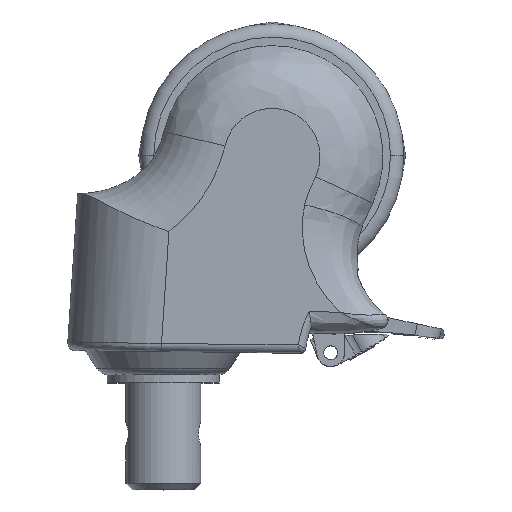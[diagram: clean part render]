
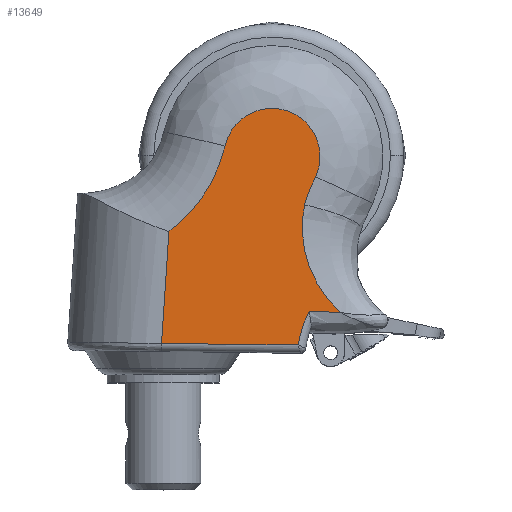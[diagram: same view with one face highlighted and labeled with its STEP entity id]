
A CAD part, top view. The second image highlights one B-rep face of the part: STEP entity #13649.
In plain terms, the highlighted planar face has unit normal (0, 0, 1) as drawn and (0, 0, -1) by its records, which use the part's own axes.
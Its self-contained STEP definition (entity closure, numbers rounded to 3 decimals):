
#11590=CARTESIAN_POINT('',(20.616,73.271,
-35.));
#12021=CARTESIAN_POINT('',(74.887,57.559,-35.));
#12022=CARTESIAN_POINT('',(76.187,57.629,-35.));
#12023=CARTESIAN_POINT('',(78.784,57.699,
-35.));
#12024=CARTESIAN_POINT('',(82.69,57.597,
-35.));
#12025=CARTESIAN_POINT('',(85.271,57.391,
-35.));
#12026=CARTESIAN_POINT('',(86.558,57.254,
-35.));
#12037=CARTESIAN_POINT('',(116.407,74.804,-35.));
#12038=DIRECTION('',(0.,0.,-1.));
#12039=DIRECTION('',(-0.924,-0.384,0.));
#12040=AXIS2_PLACEMENT_3D('',#12037,#12038,#12039);
#12042=DIRECTION('',(-0.998,0.056,0.));
#12043=VECTOR('',#12042,51.125);
#12044=CARTESIAN_POINT('',(71.662,70.417,-35.));
#12045=LINE('',#12044,#12043);
#12046=DIRECTION('',(0.,1.,0.));
#12047=VECTOR('',#12046,41.99);
#12048=CARTESIAN_POINT('',(20.616,31.281,-35.));
#12049=LINE('',#12048,#12047);
#12050=CARTESIAN_POINT('',(-14.901,-10.713,-35.));
#12051=DIRECTION('',(0.,0.,1.));
#12052=DIRECTION('',(0.988,0.157,0.));
#12053=AXIS2_PLACEMENT_3D('',#12050,#12051,#12052);
#12055=CARTESIAN_POINT('',(57.195,0.743,-35.));
#12056=DIRECTION('',(0.,0.,-1.));
#12057=DIRECTION('',(0.934,0.358,0.));
#12058=AXIS2_PLACEMENT_3D('',#12055,#12056,#12057);
#12060=CARTESIAN_POINT('',(70.616,17.966,-35.));
#12061=CARTESIAN_POINT('',(70.668,17.613,-35.));
#12062=CARTESIAN_POINT('',(70.796,16.871,-35.));
#12063=CARTESIAN_POINT('',(71.063,15.664,-35.));
#12064=CARTESIAN_POINT('',(71.426,14.315,-35.));
#12065=CARTESIAN_POINT('',(71.905,12.794,-35.));
#12066=CARTESIAN_POINT('',(72.503,11.102,-35.));
#12067=CARTESIAN_POINT('',(73.212,9.24,-35.));
#12068=CARTESIAN_POINT('',(73.73,7.895,-35.));
#12069=CARTESIAN_POINT('',(73.999,7.194,-35.));
#12071=CARTESIAN_POINT('',(86.558,57.254,
-35.));
#12072=CARTESIAN_POINT('',(86.073,56.861,
-35.));
#12073=CARTESIAN_POINT('',(85.109,56.045,
-35.));
#12074=CARTESIAN_POINT('',(83.672,54.726,
-35.));
#12075=CARTESIAN_POINT('',(82.283,53.336,
-35.));
#12076=CARTESIAN_POINT('',(80.967,51.904,
-35.));
#12077=CARTESIAN_POINT('',(79.723,50.427,
-35.));
#12078=CARTESIAN_POINT('',(78.552,48.91,
-35.));
#12079=CARTESIAN_POINT('',(77.454,47.354,
-35.));
#12080=CARTESIAN_POINT('',(76.431,45.764,
-35.));
#12081=CARTESIAN_POINT('',(75.484,44.143,-35.));
#12082=CARTESIAN_POINT('',(74.613,42.492,-35.));
#12083=CARTESIAN_POINT('',(73.819,40.814,-35.));
#12084=CARTESIAN_POINT('',(73.101,39.113,-35.));
#12085=CARTESIAN_POINT('',(72.462,37.391,-35.));
#12086=CARTESIAN_POINT('',(71.9,35.65,
-35.));
#12087=CARTESIAN_POINT('',(71.417,33.896,
-35.));
#12088=CARTESIAN_POINT('',(71.013,32.129,
-35.));
#12089=CARTESIAN_POINT('',(70.687,30.354,
-35.));
#12090=CARTESIAN_POINT('',(70.441,28.574,
-35.));
#12091=CARTESIAN_POINT('',(70.273,26.792,
-35.));
#12092=CARTESIAN_POINT('',(70.183,25.013,
-35.));
#12093=CARTESIAN_POINT('',(70.172,23.236,
-35.));
#12094=CARTESIAN_POINT('',(70.239,21.466,
-35.));
#12095=CARTESIAN_POINT('',(70.383,19.707,-35.));
#12096=CARTESIAN_POINT('',(70.53,18.544,
-35.));
#12097=CARTESIAN_POINT('',(70.616,17.966,-35.));
#12115=CARTESIAN_POINT('',(20.616,31.281,-35.));
#12761=CARTESIAN_POINT('',(73.999,7.194,-35.));
#12762=CARTESIAN_POINT('',(39.418,-2.082,-35.));
#12763=VERTEX_POINT('',#12761);
#12764=VERTEX_POINT('',#12762);
#12765=VERTEX_POINT('',#12060);
#12766=VERTEX_POINT('',#12071);
#12776=VERTEX_POINT('',#12115);
#12803=CARTESIAN_POINT('',(74.887,57.559,-35.));
#12804=CARTESIAN_POINT('',(71.662,70.418,-35.));
#12805=VERTEX_POINT('',#12803);
#12806=VERTEX_POINT('',#12804);
#12807=VERTEX_POINT('',#11590);
#13630=CARTESIAN_POINT('',(0.,0.,-35.));
#13631=DIRECTION('',(0.,0.,1.));
#13632=DIRECTION('',(1.,0.,0.));
#13633=AXIS2_PLACEMENT_3D('',#13630,#13631,#13632);
#13634=PLANE('',#13633);
#13635=ORIENTED_EDGE('',*,*,#13624,.T.);
#13636=ORIENTED_EDGE('',*,*,#13375,.T.);
#13637=ORIENTED_EDGE('',*,*,#13073,.F.);
#13639=ORIENTED_EDGE('',*,*,#13638,.F.);
#13641=ORIENTED_EDGE('',*,*,#13640,.F.);
#13643=ORIENTED_EDGE('',*,*,#13642,.F.);
#13645=ORIENTED_EDGE('',*,*,#13644,.F.);
#13646=ORIENTED_EDGE('',*,*,#13609,.F.);
#13647=EDGE_LOOP('',(#13635,#13636,#13637,#13639,#13641,#13643,#13645,#13646));
#13648=FACE_OUTER_BOUND('',#13647,.F.);
#12027=B_SPLINE_CURVE_WITH_KNOTS('',3,(#12021,#12022,#12023,#12024,#12025,
#12026),.UNSPECIFIED.,.F.,.F.,(4,1,1,4),(0.,0.333,
0.667,1.),.UNSPECIFIED.);
#12041=CIRCLE('',#12040,44.959);
#12054=CIRCLE('',#12053,55.);
#12059=CIRCLE('',#12058,18.);
#12070=B_SPLINE_CURVE_WITH_KNOTS('',3,(#12060,#12061,#12062,#12063,#12064,
#12065,#12066,#12067,#12068,#12069),.UNSPECIFIED.,.F.,.F.,(4,1,1,1,1,1,1,4),(
0.,0.143,0.286,0.429,0.571,
0.714,0.857,1.),.UNSPECIFIED.);
#12098=B_SPLINE_CURVE_WITH_KNOTS('',3,(#12071,#12072,#12073,#12074,#12075,
#12076,#12077,#12078,#12079,#12080,#12081,#12082,#12083,#12084,#12085,#12086,
#12087,#12088,#12089,#12090,#12091,#12092,#12093,#12094,#12095,#12096,#12097),
.UNSPECIFIED.,.F.,.F.,(4,1,1,1,1,1,1,1,1,1,1,1,1,1,1,1,1,1,1,1,1,1,1,1,4),(0.,
0.042,0.083,0.125,0.167,0.208,
0.25,0.292,0.333,0.375,0.417,
0.458,0.5,0.542,0.583,0.625,
0.667,0.708,0.75,0.792,0.833,
0.875,0.917,0.958,1.),.UNSPECIFIED.);
#13073=EDGE_CURVE('',#12776,#12807,#12049,.T.);
#13375=EDGE_CURVE('',#12806,#12807,#12045,.T.);
#13609=EDGE_CURVE('',#12805,#12766,#12027,.T.);
#13624=EDGE_CURVE('',#12805,#12806,#12041,.T.);
#13638=EDGE_CURVE('',#12764,#12776,#12054,.T.);
#13640=EDGE_CURVE('',#12763,#12764,#12059,.T.);
#13642=EDGE_CURVE('',#12765,#12763,#12070,.T.);
#13644=EDGE_CURVE('',#12766,#12765,#12098,.T.);
#13649=ADVANCED_FACE('',(#13648),#13634,.F.);
